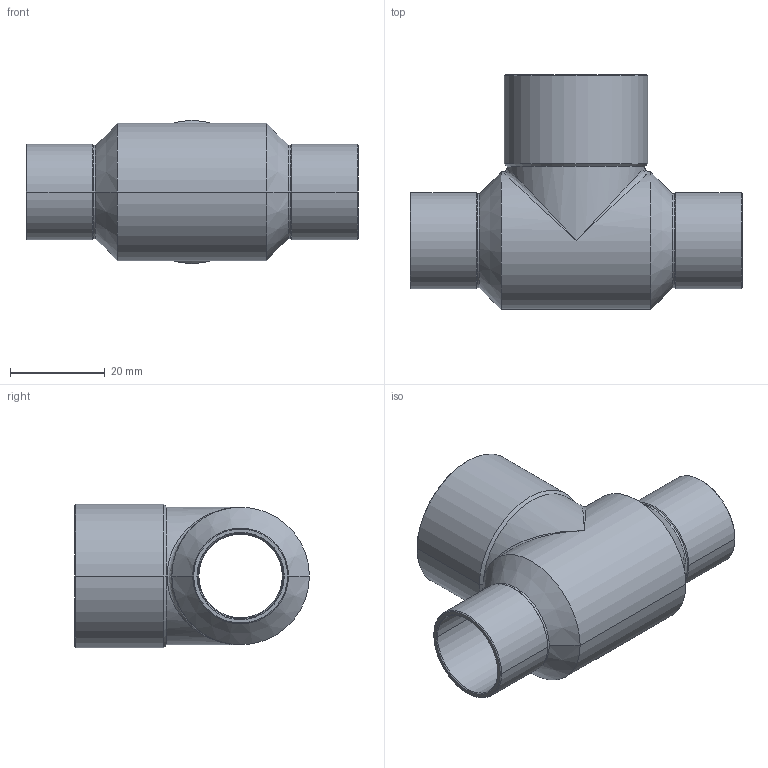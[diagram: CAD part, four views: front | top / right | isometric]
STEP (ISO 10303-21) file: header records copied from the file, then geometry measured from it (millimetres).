
FILE_DESCRIPTION((''),'2;1');
FILE_NAME('P:\Bouwmaten\z-maattekeningen 3D\5000\5130\5130182818.stp','2005-10-26T11:53:33',('Kris'),(''),'Autodesk Inventor 8','Autodesk Inventor 8','');
FILE_SCHEMA(('AUTOMOTIVE_DESIGN { 1 0 10303 214 1 1 1 1 }'));
Length unit declared in the file: millimetre
Products named in the file (1): 5130182818
Bounding box: 70 x 49.5 x 30.2 mm (x, y, z)
Volume: 7712.3 mm3; surface area: 14281.2 mm2
Topology: 1 solids, 1 shells, 67 faces, 154 edges, 80 vertices
Faces by surface type: cone 32, cylinder 28, bspline 4, plane 3
Entity records: 2207 total; most frequent: CARTESIAN_POINT 682, DIRECTION 354, ORIENTED_EDGE 292, AXIS2_PLACEMENT_3D 148, EDGE_CURVE 146, VERTEX_POINT 80, EDGE_LOOP 70, CIRCLE 68
